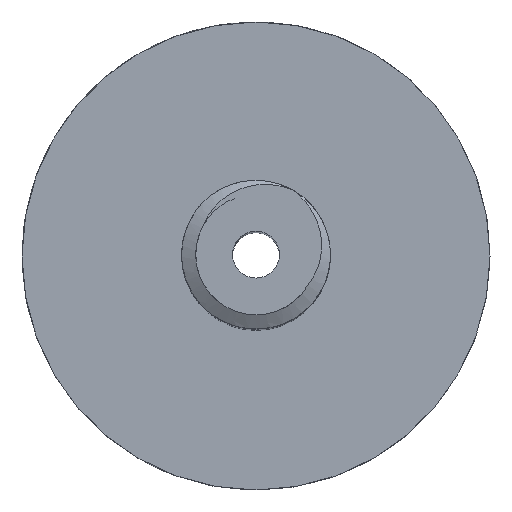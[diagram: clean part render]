
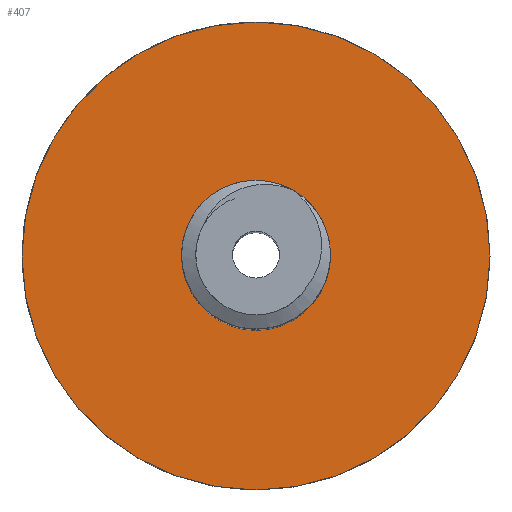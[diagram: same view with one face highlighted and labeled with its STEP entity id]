
A CAD part, top view. The second image highlights one B-rep face of the part: STEP entity #407.
In plain terms, the highlighted planar face has unit normal (0, 0, 1).
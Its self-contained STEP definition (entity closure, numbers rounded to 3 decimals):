
#25=FACE_BOUND('',#96,.T.);
#37=PLANE('',#472);
#63=FACE_OUTER_BOUND('',#95,.T.);
#95=EDGE_LOOP('',(#366));
#96=EDGE_LOOP('',(#367));
#119=CIRCLE('',#461,4.77);
#122=CIRCLE('',#471,15.);
#199=VERTEX_POINT('',#1538);
#202=VERTEX_POINT('',#1553);
#251=EDGE_CURVE('',#199,#199,#119,.T.);
#257=EDGE_CURVE('',#202,#202,#122,.T.);
#366=ORIENTED_EDGE('',*,*,#257,.T.);
#367=ORIENTED_EDGE('',*,*,#251,.T.);
#407=ADVANCED_FACE('',(#63,#25),#37,.T.);
#461=AXIS2_PLACEMENT_3D('',#1539,#566,#567);
#471=AXIS2_PLACEMENT_3D('',#1555,#589,#590);
#472=AXIS2_PLACEMENT_3D('',#1556,#591,#592);
#566=DIRECTION('center_axis',(0.,0.,-1.));
#567=DIRECTION('ref_axis',(-1.,0.,0.));
#589=DIRECTION('center_axis',(0.,0.,1.));
#590=DIRECTION('ref_axis',(-1.,0.,0.));
#591=DIRECTION('center_axis',(0.,0.,1.));
#592=DIRECTION('ref_axis',(-1.,0.,0.));
#1538=CARTESIAN_POINT('',(4.77,0.,40.));
#1539=CARTESIAN_POINT('Origin',(0.,0.,40.));
#1553=CARTESIAN_POINT('',(15.,0.,40.));
#1555=CARTESIAN_POINT('Origin',(0.,0.,40.));
#1556=CARTESIAN_POINT('Origin',(0.,0.,40.));
